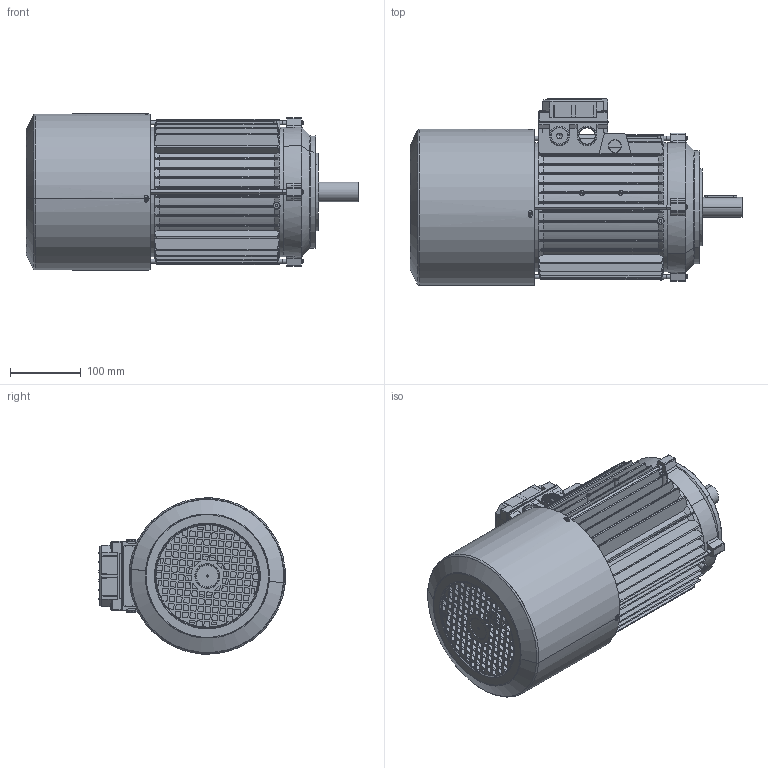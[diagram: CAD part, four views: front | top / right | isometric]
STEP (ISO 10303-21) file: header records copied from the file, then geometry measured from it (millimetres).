
FILE_DESCRIPTION (( 'STEP AP214' ), '1' );
FILE_NAME ('M14HC0010.STEP', '2018-12-06T16:59:05', ( '' ), ( '' ), 'SwSTEP 2.0', 'SolidWorks 2018', '' );
FILE_SCHEMA (( 'AUTOMOTIVE_DESIGN' ));
Length unit declared in the file: millimetre
Products named in the file (12): Coperchio per Scatola Singola 90 - 100 - 112 con viti; Guarnizione Coperchio Semplice Scatola BA 90 100 112 - DDAL0094; Vite per coperchio morsettiera; Coperchio per Scatola Singola 90 - 100 - 112; Chiavetta 100-112; Albero BM 112; Cuffia BM 112; Tirante SM 112; Scudo Lato Freno P1 BM 112 - DFAN0101; Scudo a Flangia B14 112 - DFAC0194 LAVORATO; Carcassa 112 B5; M14HC0010
Assembly tree (17 placements, depth 3):
  M14HC0010
    Carcassa 112 B5
    Scudo a Flangia B14 112 - DFAC0194 LAVORATO
    Scudo Lato Freno P1 BM 112 - DFAN0101
    Tirante SM 112  x4
    Cuffia BM 112
    Albero BM 112
    Chiavetta 100-112
    Coperchio per Scatola Singola 90 - 100 - 112 con viti
      Coperchio per Scatola Singola 90 - 100 - 112
      Vite per coperchio morsettiera  x4
      Guarnizione Coperchio Semplice Scatola BA 90 100 112 - DDAL0094
Bounding box: 470.25 x 264.69 x 221.38 mm (x, y, z)
Volume: 1998943.8 mm3; surface area: 1094277.9 mm2
Topology: 20 solids, 20 shells, 3231 faces, 8774 edges, 5592 vertices
Faces by surface type: cylinder 1239, plane 1184, torus 284, cone 269, bspline 255
Entity records: 120915 total; most frequent: CARTESIAN_POINT 40227, ORIENTED_EDGE 16376, DIRECTION 15015, EDGE_CURVE 8188, AXIS2_PLACEMENT_3D 5547, VERTEX_POINT 5262, LINE 3921, VECTOR 3921
